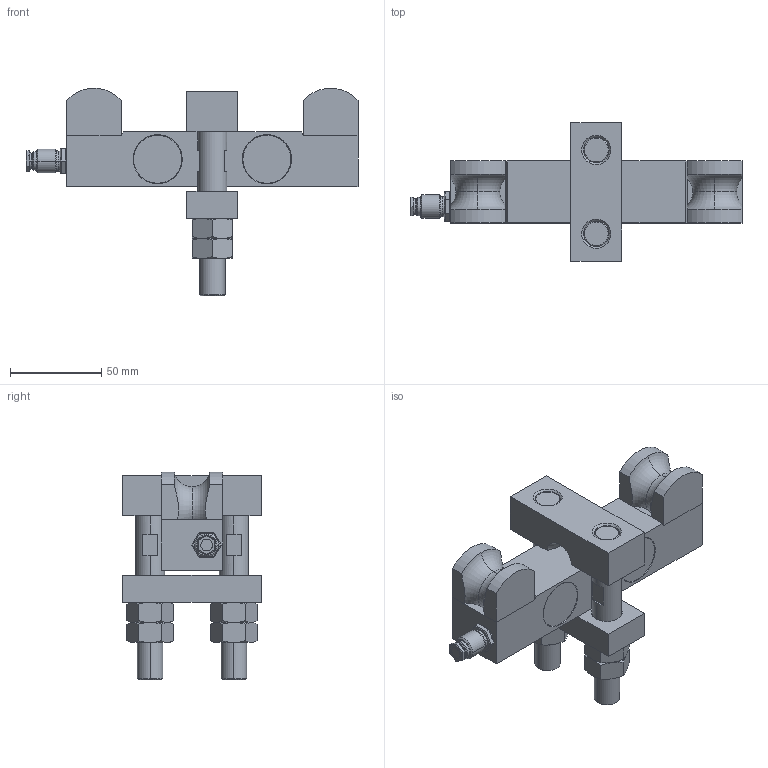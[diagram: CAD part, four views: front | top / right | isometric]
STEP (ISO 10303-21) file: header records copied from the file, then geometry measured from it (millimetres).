
FILE_DESCRIPTION((''),'1');
FILE_NAME('LULA_4000_kg.step','2018-01-22T13:11:29',(''),(''),'','','');
FILE_SCHEMA(('AUTOMOTIVE_DESIGN { 1 0 10303 214 1 1 1 1 }'));
Products named in the file (11): LULA body 01; LULA body 02; LULA screw 01; LULA part 02; LULA 4000_kg; LULA part 03; LULA plate 01; LULA screw 02; LULA plate 03; LULA nut 01; LULA cable gland 01
Assembly tree (18 placements, depth 3):
  LULA 4000_kg
    LULA body 01
      LULA body 02
      LULA screw 01  x2
      LULA part 02  x4
    LULA part 03
      LULA plate 01
      LULA screw 02  x2
      LULA plate 03
      LULA nut 01  x4
    LULA cable gland 01
Bounding box: 182.3 x 76 x 114 mm (x, y, z)
Volume: 311575.4 mm3; surface area: 77731.1 mm2
Topology: 18 solids, 18 shells, 434 faces, 956 edges, 581 vertices
Faces by surface type: plane 168, cone 130, cylinder 100, torus 34, bspline 2
Entity records: 11267 total; most frequent: CARTESIAN_POINT 2694, DIRECTION 1382, ORIENTED_EDGE 1188, EDGE_CURVE 594, AXIS2_PLACEMENT_3D 553, VERTEX_POINT 366, EDGE_LOOP 300, STYLED_ITEM 277
